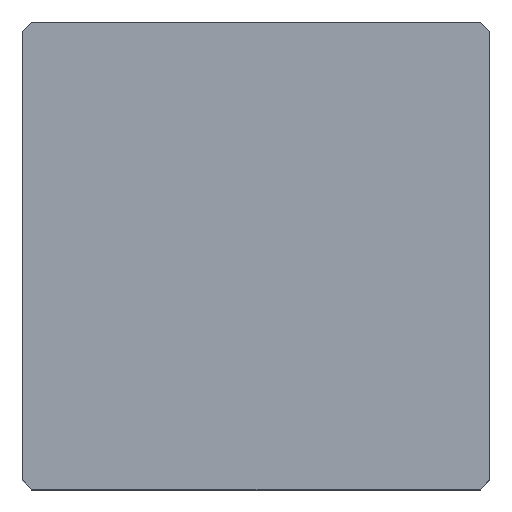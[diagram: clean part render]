
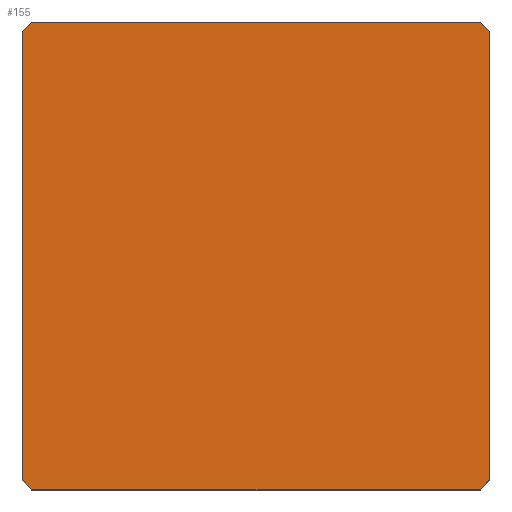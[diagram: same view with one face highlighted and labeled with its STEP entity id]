
A CAD part, top view. The second image highlights one B-rep face of the part: STEP entity #155.
In plain terms, the highlighted planar face has unit normal (0, 0, 1).
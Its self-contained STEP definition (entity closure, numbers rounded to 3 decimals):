
#39 = EDGE_CURVE('',#40,#42,#44,.T.);
#40 = VERTEX_POINT('',#41);
#41 = CARTESIAN_POINT('',(-10.,-9.6,19.25));
#42 = VERTEX_POINT('',#43);
#43 = CARTESIAN_POINT('',(-10.,9.6,19.25));
#44 = SURFACE_CURVE('',#45,(#49,#61),.PCURVE_S1.);
#45 = LINE('',#46,#47);
#46 = CARTESIAN_POINT('',(-10.,-10.,19.25));
#47 = VECTOR('',#48,1.);
#48 = DIRECTION('',(-0.,1.,0.));
#49 = PCURVE('',#50,#55);
#50 = PLANE('',#51);
#51 = AXIS2_PLACEMENT_3D('',#52,#53,#54);
#52 = CARTESIAN_POINT('',(-10.,-10.,0.));
#53 = DIRECTION('',(1.,0.,-0.));
#54 = DIRECTION('',(0.,0.,1.));
#55 = DEFINITIONAL_REPRESENTATION('',(#56),#60);
#56 = LINE('',#57,#58);
#57 = CARTESIAN_POINT('',(19.25,0.));
#58 = VECTOR('',#59,1.);
#59 = DIRECTION('',(0.,-1.));
#60 = ( GEOMETRIC_REPRESENTATION_CONTEXT(2) 
PARAMETRIC_REPRESENTATION_CONTEXT() REPRESENTATION_CONTEXT('2D SPACE',''
  ) );
#61 = PCURVE('',#62,#67);
#62 = PLANE('',#63);
#63 = AXIS2_PLACEMENT_3D('',#64,#65,#66);
#64 = CARTESIAN_POINT('',(-10.,-10.,19.25));
#65 = DIRECTION('',(0.,0.,1.));
#66 = DIRECTION('',(1.,0.,-0.));
#67 = DEFINITIONAL_REPRESENTATION('',(#68),#72);
#68 = LINE('',#69,#70);
#69 = CARTESIAN_POINT('',(0.,0.));
#70 = VECTOR('',#71,1.);
#71 = DIRECTION('',(0.,1.));
#72 = ( GEOMETRIC_REPRESENTATION_CONTEXT(2) 
PARAMETRIC_REPRESENTATION_CONTEXT() REPRESENTATION_CONTEXT('2D SPACE',''
  ) );
#90 = PLANE('',#91);
#91 = AXIS2_PLACEMENT_3D('',#92,#93,#94);
#92 = CARTESIAN_POINT('',(-9.8,-9.8,0.));
#93 = DIRECTION('',(-0.707,-0.707,0.));
#94 = DIRECTION('',(-0.,-0.,-1.));
#144 = PLANE('',#145);
#145 = AXIS2_PLACEMENT_3D('',#146,#147,#148);
#146 = CARTESIAN_POINT('',(-9.8,9.8,0.));
#147 = DIRECTION('',(0.707,-0.707,0.));
#148 = DIRECTION('',(-0.,-0.,-1.));
#155 = ADVANCED_FACE('',(#156),#62,.T.);
#156 = FACE_BOUND('',#157,.T.);
#157 = EDGE_LOOP('',(#158,#159,#182,#210,#238,#266,#294,#322));
#158 = ORIENTED_EDGE('',*,*,#39,.F.);
#159 = ORIENTED_EDGE('',*,*,#160,.T.);
#160 = EDGE_CURVE('',#40,#161,#163,.T.);
#161 = VERTEX_POINT('',#162);
#162 = CARTESIAN_POINT('',(-9.6,-10.,19.25));
#163 = SURFACE_CURVE('',#164,(#168,#175),.PCURVE_S1.);
#164 = LINE('',#165,#166);
#165 = CARTESIAN_POINT('',(-9.8,-9.8,19.25));
#166 = VECTOR('',#167,1.);
#167 = DIRECTION('',(0.707,-0.707,0.));
#168 = PCURVE('',#62,#169);
#169 = DEFINITIONAL_REPRESENTATION('',(#170),#174);
#170 = LINE('',#171,#172);
#171 = CARTESIAN_POINT('',(0.2,0.2));
#172 = VECTOR('',#173,1.);
#173 = DIRECTION('',(0.707,-0.707));
#174 = ( GEOMETRIC_REPRESENTATION_CONTEXT(2) 
PARAMETRIC_REPRESENTATION_CONTEXT() REPRESENTATION_CONTEXT('2D SPACE',''
  ) );
#175 = PCURVE('',#90,#176);
#176 = DEFINITIONAL_REPRESENTATION('',(#177),#181);
#177 = LINE('',#178,#179);
#178 = CARTESIAN_POINT('',(-19.25,0.));
#179 = VECTOR('',#180,1.);
#180 = DIRECTION('',(-0.,1.));
#181 = ( GEOMETRIC_REPRESENTATION_CONTEXT(2) 
PARAMETRIC_REPRESENTATION_CONTEXT() REPRESENTATION_CONTEXT('2D SPACE',''
  ) );
#182 = ORIENTED_EDGE('',*,*,#183,.T.);
#183 = EDGE_CURVE('',#161,#184,#186,.T.);
#184 = VERTEX_POINT('',#185);
#185 = CARTESIAN_POINT('',(9.6,-10.,19.25));
#186 = SURFACE_CURVE('',#187,(#191,#198),.PCURVE_S1.);
#187 = LINE('',#188,#189);
#188 = CARTESIAN_POINT('',(-10.,-10.,19.25));
#189 = VECTOR('',#190,1.);
#190 = DIRECTION('',(1.,0.,-0.));
#191 = PCURVE('',#62,#192);
#192 = DEFINITIONAL_REPRESENTATION('',(#193),#197);
#193 = LINE('',#194,#195);
#194 = CARTESIAN_POINT('',(0.,0.));
#195 = VECTOR('',#196,1.);
#196 = DIRECTION('',(1.,0.));
#197 = ( GEOMETRIC_REPRESENTATION_CONTEXT(2) 
PARAMETRIC_REPRESENTATION_CONTEXT() REPRESENTATION_CONTEXT('2D SPACE',''
  ) );
#198 = PCURVE('',#199,#204);
#199 = PLANE('',#200);
#200 = AXIS2_PLACEMENT_3D('',#201,#202,#203);
#201 = CARTESIAN_POINT('',(-10.,-10.,0.));
#202 = DIRECTION('',(-0.,1.,0.));
#203 = DIRECTION('',(0.,0.,1.));
#204 = DEFINITIONAL_REPRESENTATION('',(#205),#209);
#205 = LINE('',#206,#207);
#206 = CARTESIAN_POINT('',(19.25,0.));
#207 = VECTOR('',#208,1.);
#208 = DIRECTION('',(0.,1.));
#209 = ( GEOMETRIC_REPRESENTATION_CONTEXT(2) 
PARAMETRIC_REPRESENTATION_CONTEXT() REPRESENTATION_CONTEXT('2D SPACE',''
  ) );
#210 = ORIENTED_EDGE('',*,*,#211,.F.);
#211 = EDGE_CURVE('',#212,#184,#214,.T.);
#212 = VERTEX_POINT('',#213);
#213 = CARTESIAN_POINT('',(10.,-9.6,19.25));
#214 = SURFACE_CURVE('',#215,(#219,#226),.PCURVE_S1.);
#215 = LINE('',#216,#217);
#216 = CARTESIAN_POINT('',(4.8,-14.8,19.25));
#217 = VECTOR('',#218,1.);
#218 = DIRECTION('',(-0.707,-0.707,0.));
#219 = PCURVE('',#62,#220);
#220 = DEFINITIONAL_REPRESENTATION('',(#221),#225);
#221 = LINE('',#222,#223);
#222 = CARTESIAN_POINT('',(14.8,-4.8));
#223 = VECTOR('',#224,1.);
#224 = DIRECTION('',(-0.707,-0.707));
#225 = ( GEOMETRIC_REPRESENTATION_CONTEXT(2) 
PARAMETRIC_REPRESENTATION_CONTEXT() REPRESENTATION_CONTEXT('2D SPACE',''
  ) );
#226 = PCURVE('',#227,#232);
#227 = PLANE('',#228);
#228 = AXIS2_PLACEMENT_3D('',#229,#230,#231);
#229 = CARTESIAN_POINT('',(9.8,-9.8,0.));
#230 = DIRECTION('',(-0.707,0.707,0.));
#231 = DIRECTION('',(-0.,-0.,-1.));
#232 = DEFINITIONAL_REPRESENTATION('',(#233),#237);
#233 = LINE('',#234,#235);
#234 = CARTESIAN_POINT('',(-19.25,7.071));
#235 = VECTOR('',#236,1.);
#236 = DIRECTION('',(-0.,1.));
#237 = ( GEOMETRIC_REPRESENTATION_CONTEXT(2) 
PARAMETRIC_REPRESENTATION_CONTEXT() REPRESENTATION_CONTEXT('2D SPACE',''
  ) );
#238 = ORIENTED_EDGE('',*,*,#239,.T.);
#239 = EDGE_CURVE('',#212,#240,#242,.T.);
#240 = VERTEX_POINT('',#241);
#241 = CARTESIAN_POINT('',(10.,9.6,19.25));
#242 = SURFACE_CURVE('',#243,(#247,#254),.PCURVE_S1.);
#243 = LINE('',#244,#245);
#244 = CARTESIAN_POINT('',(10.,-10.,19.25));
#245 = VECTOR('',#246,1.);
#246 = DIRECTION('',(-0.,1.,0.));
#247 = PCURVE('',#62,#248);
#248 = DEFINITIONAL_REPRESENTATION('',(#249),#253);
#249 = LINE('',#250,#251);
#250 = CARTESIAN_POINT('',(20.,0.));
#251 = VECTOR('',#252,1.);
#252 = DIRECTION('',(0.,1.));
#253 = ( GEOMETRIC_REPRESENTATION_CONTEXT(2) 
PARAMETRIC_REPRESENTATION_CONTEXT() REPRESENTATION_CONTEXT('2D SPACE',''
  ) );
#254 = PCURVE('',#255,#260);
#255 = PLANE('',#256);
#256 = AXIS2_PLACEMENT_3D('',#257,#258,#259);
#257 = CARTESIAN_POINT('',(10.,-10.,0.));
#258 = DIRECTION('',(1.,0.,-0.));
#259 = DIRECTION('',(0.,0.,1.));
#260 = DEFINITIONAL_REPRESENTATION('',(#261),#265);
#261 = LINE('',#262,#263);
#262 = CARTESIAN_POINT('',(19.25,0.));
#263 = VECTOR('',#264,1.);
#264 = DIRECTION('',(0.,-1.));
#265 = ( GEOMETRIC_REPRESENTATION_CONTEXT(2) 
PARAMETRIC_REPRESENTATION_CONTEXT() REPRESENTATION_CONTEXT('2D SPACE',''
  ) );
#266 = ORIENTED_EDGE('',*,*,#267,.T.);
#267 = EDGE_CURVE('',#240,#268,#270,.T.);
#268 = VERTEX_POINT('',#269);
#269 = CARTESIAN_POINT('',(9.6,10.,19.25));
#270 = SURFACE_CURVE('',#271,(#275,#282),.PCURVE_S1.);
#271 = LINE('',#272,#273);
#272 = CARTESIAN_POINT('',(9.8,9.8,19.25));
#273 = VECTOR('',#274,1.);
#274 = DIRECTION('',(-0.707,0.707,0.));
#275 = PCURVE('',#62,#276);
#276 = DEFINITIONAL_REPRESENTATION('',(#277),#281);
#277 = LINE('',#278,#279);
#278 = CARTESIAN_POINT('',(19.8,19.8));
#279 = VECTOR('',#280,1.);
#280 = DIRECTION('',(-0.707,0.707));
#281 = ( GEOMETRIC_REPRESENTATION_CONTEXT(2) 
PARAMETRIC_REPRESENTATION_CONTEXT() REPRESENTATION_CONTEXT('2D SPACE',''
  ) );
#282 = PCURVE('',#283,#288);
#283 = PLANE('',#284);
#284 = AXIS2_PLACEMENT_3D('',#285,#286,#287);
#285 = CARTESIAN_POINT('',(9.8,9.8,0.));
#286 = DIRECTION('',(0.707,0.707,0.));
#287 = DIRECTION('',(-0.,0.,-1.));
#288 = DEFINITIONAL_REPRESENTATION('',(#289),#293);
#289 = LINE('',#290,#291);
#290 = CARTESIAN_POINT('',(-19.25,0.));
#291 = VECTOR('',#292,1.);
#292 = DIRECTION('',(-0.,1.));
#293 = ( GEOMETRIC_REPRESENTATION_CONTEXT(2) 
PARAMETRIC_REPRESENTATION_CONTEXT() REPRESENTATION_CONTEXT('2D SPACE',''
  ) );
#294 = ORIENTED_EDGE('',*,*,#295,.F.);
#295 = EDGE_CURVE('',#296,#268,#298,.T.);
#296 = VERTEX_POINT('',#297);
#297 = CARTESIAN_POINT('',(-9.6,10.,19.25));
#298 = SURFACE_CURVE('',#299,(#303,#310),.PCURVE_S1.);
#299 = LINE('',#300,#301);
#300 = CARTESIAN_POINT('',(-10.,10.,19.25));
#301 = VECTOR('',#302,1.);
#302 = DIRECTION('',(1.,0.,-0.));
#303 = PCURVE('',#62,#304);
#304 = DEFINITIONAL_REPRESENTATION('',(#305),#309);
#305 = LINE('',#306,#307);
#306 = CARTESIAN_POINT('',(0.,20.));
#307 = VECTOR('',#308,1.);
#308 = DIRECTION('',(1.,0.));
#309 = ( GEOMETRIC_REPRESENTATION_CONTEXT(2) 
PARAMETRIC_REPRESENTATION_CONTEXT() REPRESENTATION_CONTEXT('2D SPACE',''
  ) );
#310 = PCURVE('',#311,#316);
#311 = PLANE('',#312);
#312 = AXIS2_PLACEMENT_3D('',#313,#314,#315);
#313 = CARTESIAN_POINT('',(-10.,10.,0.));
#314 = DIRECTION('',(-0.,1.,0.));
#315 = DIRECTION('',(0.,0.,1.));
#316 = DEFINITIONAL_REPRESENTATION('',(#317),#321);
#317 = LINE('',#318,#319);
#318 = CARTESIAN_POINT('',(19.25,0.));
#319 = VECTOR('',#320,1.);
#320 = DIRECTION('',(0.,1.));
#321 = ( GEOMETRIC_REPRESENTATION_CONTEXT(2) 
PARAMETRIC_REPRESENTATION_CONTEXT() REPRESENTATION_CONTEXT('2D SPACE',''
  ) );
#322 = ORIENTED_EDGE('',*,*,#323,.F.);
#323 = EDGE_CURVE('',#42,#296,#324,.T.);
#324 = SURFACE_CURVE('',#325,(#329,#336),.PCURVE_S1.);
#325 = LINE('',#326,#327);
#326 = CARTESIAN_POINT('',(-14.8,4.8,19.25));
#327 = VECTOR('',#328,1.);
#328 = DIRECTION('',(0.707,0.707,-0.));
#329 = PCURVE('',#62,#330);
#330 = DEFINITIONAL_REPRESENTATION('',(#331),#335);
#331 = LINE('',#332,#333);
#332 = CARTESIAN_POINT('',(-4.8,14.8));
#333 = VECTOR('',#334,1.);
#334 = DIRECTION('',(0.707,0.707));
#335 = ( GEOMETRIC_REPRESENTATION_CONTEXT(2) 
PARAMETRIC_REPRESENTATION_CONTEXT() REPRESENTATION_CONTEXT('2D SPACE',''
  ) );
#336 = PCURVE('',#144,#337);
#337 = DEFINITIONAL_REPRESENTATION('',(#338),#342);
#338 = LINE('',#339,#340);
#339 = CARTESIAN_POINT('',(-19.25,-7.071));
#340 = VECTOR('',#341,1.);
#341 = DIRECTION('',(-0.,1.));
#342 = ( GEOMETRIC_REPRESENTATION_CONTEXT(2) 
PARAMETRIC_REPRESENTATION_CONTEXT() REPRESENTATION_CONTEXT('2D SPACE',''
  ) );
